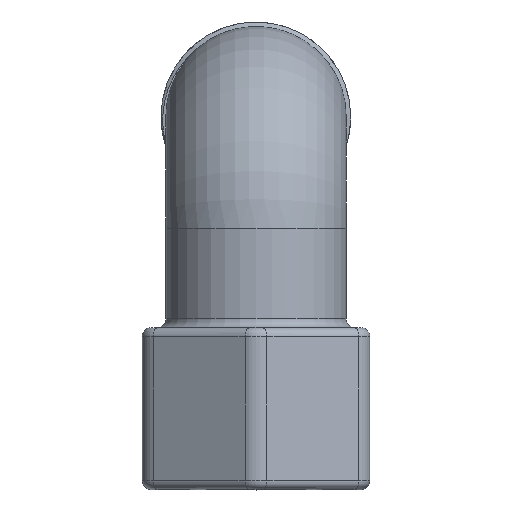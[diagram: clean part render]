
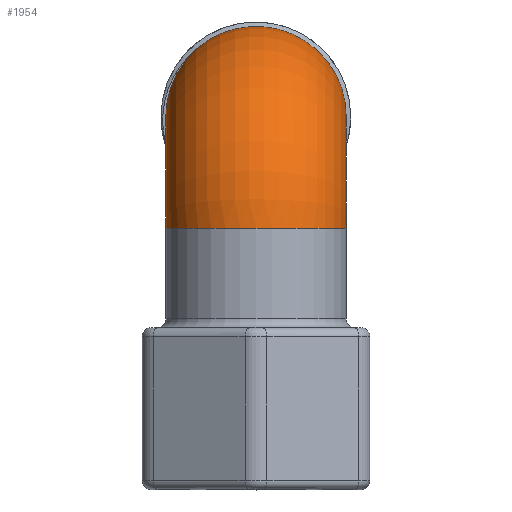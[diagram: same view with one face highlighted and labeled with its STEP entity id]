
A CAD part, top view. The second image highlights one B-rep face of the part: STEP entity #1954.
In plain terms, the highlighted toroidal (fillet/blend) face has major radius 15.621 mm and minor radius 12.573 mm.
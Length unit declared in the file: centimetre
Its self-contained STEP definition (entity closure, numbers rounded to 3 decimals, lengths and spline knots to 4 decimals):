
#117=TOROIDAL_SURFACE('',#2132,1.5621,1.2573);
#389=CIRCLE('',#1993,1.2573);
#444=CIRCLE('',#2082,1.2573);
#510=VERTEX_POINT('',#23724);
#567=VERTEX_POINT('',#23931);
#842=EDGE_CURVE('',#510,#510,#389,.T.);
#934=EDGE_CURVE('',#567,#567,#444,.T.);
#1597=ORIENTED_EDGE('',*,*,#934,.T.);
#1598=ORIENTED_EDGE('',*,*,#842,.T.);
#1719=EDGE_LOOP('',(#1597));
#1720=EDGE_LOOP('',(#1598));
#1841=FACE_BOUND('',#1719,.T.);
#1842=FACE_BOUND('',#1720,.T.);
#1954=ADVANCED_FACE('',(#1841,#1842),#117,.T.);
#1993=AXIS2_PLACEMENT_3D('',#23723,#2228,#2229);
#2082=AXIS2_PLACEMENT_3D('',#23930,#2421,#2422);
#2132=AXIS2_PLACEMENT_3D('',#46278,#2549,$);
#2228=DIRECTION('',(0.,0.,1.));
#2229=DIRECTION('',(1.257,0.,0.));
#2421=DIRECTION('',(0.,1.,0.));
#2422=DIRECTION('',(1.257,0.,0.));
#2549=DIRECTION('',(1.,0.,0.));
#23723=CARTESIAN_POINT('',(0.,0.,0.));
#23724=CARTESIAN_POINT('',(1.2573,0.,0.));
#23930=CARTESIAN_POINT('',(0.,-1.5621,1.5621));
#23931=CARTESIAN_POINT('',(1.2573,-1.5621,1.5621));
#46278=CARTESIAN_POINT('',(0.,-1.5621,0.));
